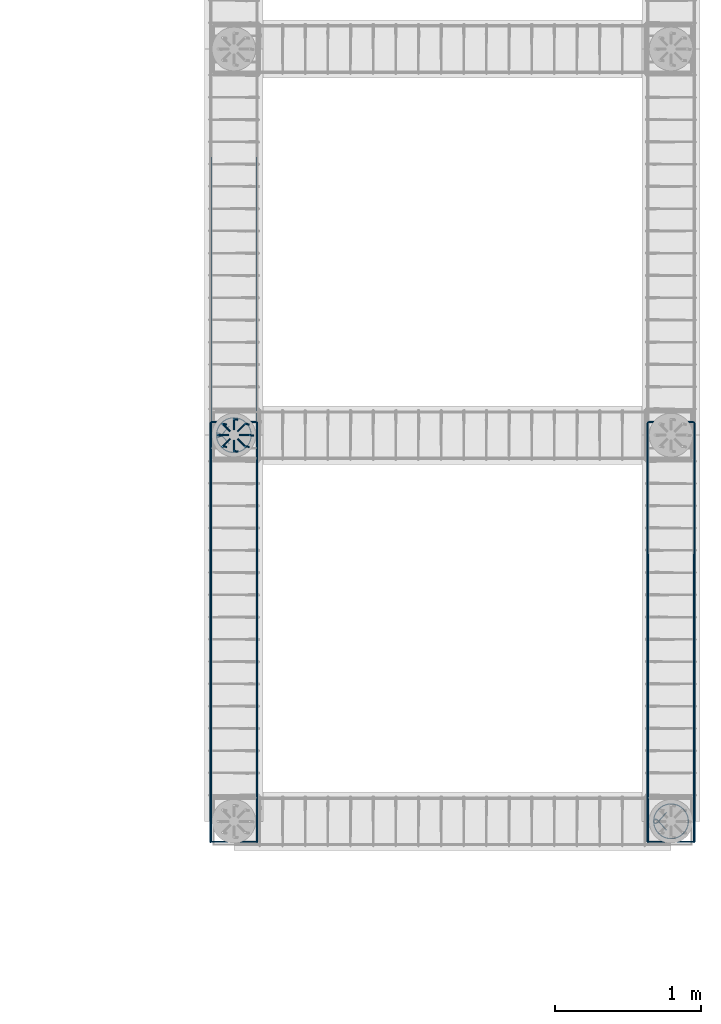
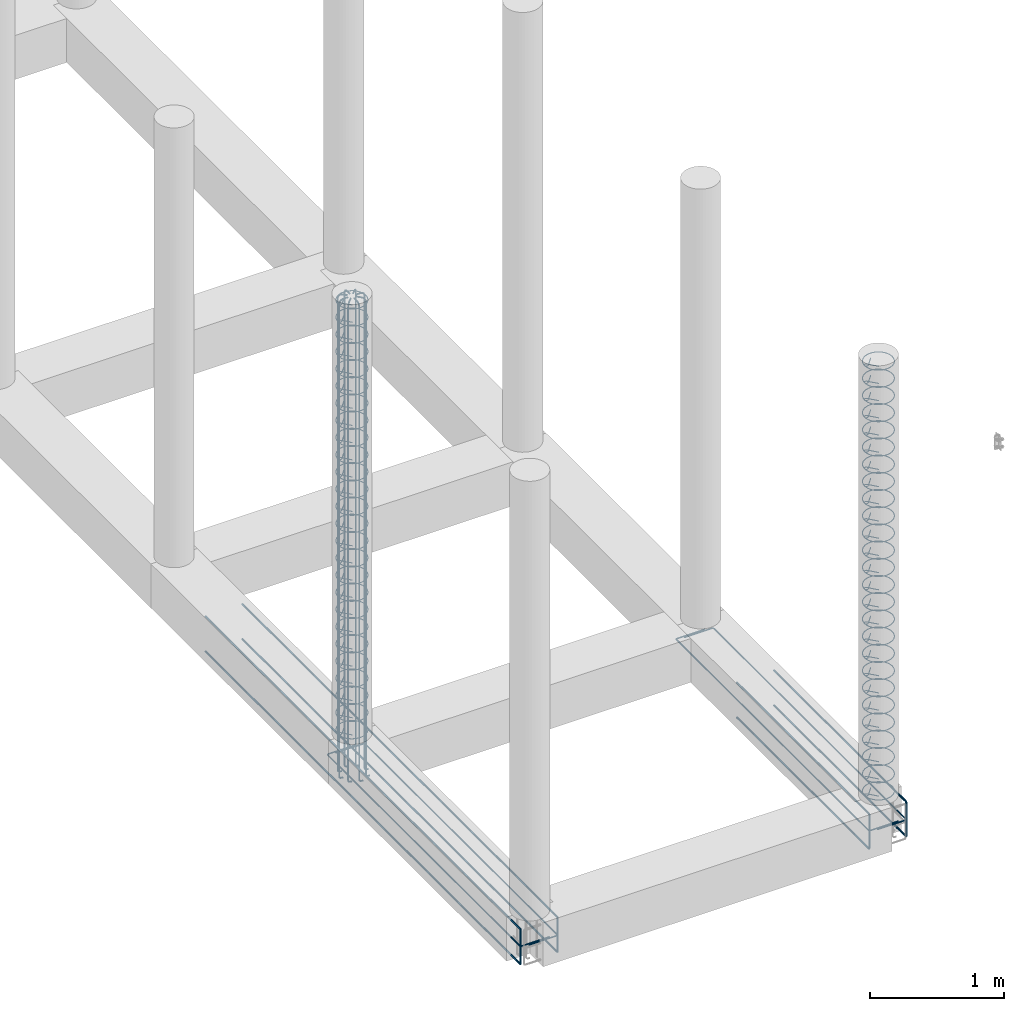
# One storey, part 5 of 20: 9 reinforcing bars.
"""IFC4 building model written with IfcOpenShell, lengths in metres."""

from ifc_helpers import new_model, entity, si_unit, origin_with_axes, place, context, project, spatial, source, transform, mapped, element, save


model = new_model("IFC4")

# Units and contexts
model_context = context("Model", 3, precision=1e-05, world=origin_with_axes())
ifc_project = project(units=[si_unit("LENGTHUNIT", "METRE"), si_unit("AREAUNIT", "SQUARE_METRE"), si_unit("VOLUMEUNIT", "CUBIC_METRE"), si_unit("MASSUNIT", "GRAM", prefix="KILO"), si_unit("TIMEUNIT", "SECOND"), si_unit("PLANEANGLEUNIT", "RADIAN"), si_unit("SOLIDANGLEUNIT", "STERADIAN"), si_unit("THERMODYNAMICTEMPERATUREUNIT", "DEGREE_CELSIUS")], contexts=[model_context])

# Site, building, storey
placement_1 = place(None, origin_with_axes())
site = spatial("IfcSite", under=ifc_project, at=placement_1, Name="Italia", CompositionType="ELEMENT")
building = spatial("IfcBuilding", under=site, at=placement_1, Name="Tettoia", CompositionType="ELEMENT")
storey = spatial("IfcBuildingStorey", under=building, at=placement_1, Name="Storey 0", CompositionType="ELEMENT", Elevation=0.0)

# Reinforcing bars
shared_shape_1 = source(origin_with_axes(), model_context, "Body", "AdvancedSweptSolid", [
    entity("IfcSweptDiskSolid", entity("IfcIndexedPolyCurve", entity("IfcCartesianPointList3D", [[11.2591, 1.93856, 0.029], [11.1957, 2.01046, 0.029], [11.1888, 2.01383, 0.029], [11.182, 2.01426, 0.029], [11.1781, 2.01374, 0.029], [11.1747, 2.01178, 0.029], [11.1724, 2.00867, 0.029], [11.1714, 2.0049, 0.029], [11.1711, 2.00071, 0.029], [11.1711, 1.99929, 0.029], [11.1725, 1.98218, 0.029], [11.1727, 1.98063, 0.029], [11.1767, 1.96401, 0.029], [11.1772, 1.96252, 0.029], [11.1837, 1.94673, 0.029], [11.1844, 1.94533, 0.029], [11.1934, 1.93076, 0.029], [11.1943, 1.92949, 0.029], [11.2054, 1.91649, 0.029], [11.2065, 1.91538, 0.029], [11.2195, 1.90429, 0.029], [11.2208, 1.90336, 0.029], [11.2353, 1.89443, 0.029], [11.2367, 1.89372, 0.029], [11.2525, 1.88718, 0.029], [11.254, 1.8867, 0.029], [11.2706, 1.88271, 0.029], [11.2722, 1.88246, 0.029], [11.2892, 1.88112, 0.029], [11.2908, 1.88112, 0.029], [11.3078, 1.88246, 0.029], [11.3094, 1.88271, 0.029], [11.326, 1.8867, 0.029], [11.3275, 1.88718, 0.029], [11.3433, 1.89372, 0.029], [11.3447, 1.89443, 0.029], [11.3592, 1.90336, 0.029], [11.3605, 1.90429, 0.029], [11.3735, 1.91538, 0.029], [11.3746, 1.91649, 0.029], [11.3857, 1.92949, 0.029], [11.3866, 1.93076, 0.029], [11.3956, 1.94533, 0.029], [11.3963, 1.94673, 0.029], [11.4028, 1.96252, 0.029], [11.4033, 1.96401, 0.029], [11.4073, 1.98063, 0.029], [11.4075, 1.98218, 0.029], [11.4089, 1.99922, 0.029], [11.4089, 2.00078, 0.029], [11.4075, 2.01782, 0.029], [11.4073, 2.01937, 0.029], [11.4033, 2.03599, 0.029], [11.4028, 2.03748, 0.029], [11.3963, 2.05327, 0.029], [11.3956, 2.05467, 0.029], [11.3866, 2.06924, 0.029], [11.3857, 2.07051, 0.029], [11.3746, 2.08351, 0.029], [11.3735, 2.08462, 0.029], [11.3605, 2.09571, 0.029], [11.3592, 2.09664, 0.029], [11.3447, 2.10557, 0.029], [11.3433, 2.10628, 0.029], [11.3275, 2.11282, 0.029], [11.326, 2.1133, 0.029], [11.3094, 2.11729, 0.029], [11.3078, 2.11754, 0.029], [11.2908, 2.11888, 0.029], [11.2892, 2.11888, 0.029], [11.2722, 2.11754, 0.029], [11.2706, 2.11729, 0.029], [11.254, 2.1133, 0.029], [11.2525, 2.11282, 0.029], [11.2367, 2.10628, 0.029], [11.2353, 2.10557, 0.029], [11.2208, 2.09664, 0.029], [11.2195, 2.09571, 0.029], [11.2065, 2.08462, 0.029], [11.2054, 2.08351, 0.029], [11.1943, 2.07051, 0.029], [11.1934, 2.06924, 0.029], [11.1844, 2.05467, 0.029], [11.1837, 2.05327, 0.029], [11.1772, 2.03748, 0.029], [11.1767, 2.03599, 0.029], [11.1727, 2.01937, 0.029], [11.1725, 2.01782, 0.029], [11.1711, 2.00071, 0.029], [11.1711, 1.99929, 0.029], [11.1714, 1.9951, 0.029], [11.1724, 1.99133, 0.029], [11.1747, 1.98822, 0.029], [11.1781, 1.98626, 0.029], [11.182, 1.98574, 0.029], [11.1888, 1.98617, 0.029], [11.1957, 1.98954, 0.029], [11.2591, 2.06144, 0.029]]), [entity("IfcLineIndex", [1, 2]), entity("IfcLineIndex", [2, 3]), entity("IfcLineIndex", [3, 4]), entity("IfcLineIndex", [4, 5]), entity("IfcLineIndex", [5, 6]), entity("IfcLineIndex", [6, 7]), entity("IfcLineIndex", [7, 8]), entity("IfcLineIndex", [8, 9]), entity("IfcLineIndex", [9, 10]), entity("IfcLineIndex", [10, 11]), entity("IfcLineIndex", [11, 12]), entity("IfcLineIndex", [12, 13]), entity("IfcLineIndex", [13, 14]), entity("IfcLineIndex", [14, 15]), entity("IfcLineIndex", [15, 16]), entity("IfcLineIndex", [16, 17]), entity("IfcLineIndex", [17, 18]), entity("IfcLineIndex", [18, 19]), entity("IfcLineIndex", [19, 20]), entity("IfcLineIndex", [20, 21]), entity("IfcLineIndex", [21, 22]), entity("IfcLineIndex", [22, 23]), entity("IfcLineIndex", [23, 24]), entity("IfcLineIndex", [24, 25]), entity("IfcLineIndex", [25, 26]), entity("IfcLineIndex", [26, 27]), entity("IfcLineIndex", [27, 28]), entity("IfcLineIndex", [28, 29]), entity("IfcLineIndex", [29, 30]), entity("IfcLineIndex", [30, 31]), entity("IfcLineIndex", [31, 32]), entity("IfcLineIndex", [32, 33]), entity("IfcLineIndex", [33, 34]), entity("IfcLineIndex", [34, 35]), entity("IfcLineIndex", [35, 36]), entity("IfcLineIndex", [36, 37]), entity("IfcLineIndex", [37, 38]), entity("IfcLineIndex", [38, 39]), entity("IfcLineIndex", [39, 40]), entity("IfcLineIndex", [40, 41]), entity("IfcLineIndex", [41, 42]), entity("IfcLineIndex", [42, 43]), entity("IfcLineIndex", [43, 44]), entity("IfcLineIndex", [44, 45]), entity("IfcLineIndex", [45, 46]), entity("IfcLineIndex", [46, 47]), entity("IfcLineIndex", [47, 48]), entity("IfcLineIndex", [48, 49]), entity("IfcLineIndex", [49, 50]), entity("IfcLineIndex", [50, 51]), entity("IfcLineIndex", [51, 52]), entity("IfcLineIndex", [52, 53]), entity("IfcLineIndex", [53, 54]), entity("IfcLineIndex", [54, 55]), entity("IfcLineIndex", [55, 56]), entity("IfcLineIndex", [56, 57]), entity("IfcLineIndex", [57, 58]), entity("IfcLineIndex", [58, 59]), entity("IfcLineIndex", [59, 60]), entity("IfcLineIndex", [60, 61]), entity("IfcLineIndex", [61, 62]), entity("IfcLineIndex", [62, 63]), entity("IfcLineIndex", [63, 64]), entity("IfcLineIndex", [64, 65]), entity("IfcLineIndex", [65, 66]), entity("IfcLineIndex", [66, 67]), entity("IfcLineIndex", [67, 68]), entity("IfcLineIndex", [68, 69]), entity("IfcLineIndex", [69, 70]), entity("IfcLineIndex", [70, 71]), entity("IfcLineIndex", [71, 72]), entity("IfcLineIndex", [72, 73]), entity("IfcLineIndex", [73, 74]), entity("IfcLineIndex", [74, 75]), entity("IfcLineIndex", [75, 76]), entity("IfcLineIndex", [76, 77]), entity("IfcLineIndex", [77, 78]), entity("IfcLineIndex", [78, 79]), entity("IfcLineIndex", [79, 80]), entity("IfcLineIndex", [80, 81]), entity("IfcLineIndex", [81, 82]), entity("IfcLineIndex", [82, 83]), entity("IfcLineIndex", [83, 84]), entity("IfcLineIndex", [84, 85]), entity("IfcLineIndex", [85, 86]), entity("IfcLineIndex", [86, 87]), entity("IfcLineIndex", [87, 88]), entity("IfcLineIndex", [88, 89]), entity("IfcLineIndex", [89, 90]), entity("IfcLineIndex", [90, 91]), entity("IfcLineIndex", [91, 92]), entity("IfcLineIndex", [92, 93]), entity("IfcLineIndex", [93, 94]), entity("IfcLineIndex", [94, 95]), entity("IfcLineIndex", [95, 96]), entity("IfcLineIndex", [96, 97]), entity("IfcLineIndex", [97, 98])], False), 0.004),
])
placement_2 = place(placement_1, origin_with_axes())
reinforcing_bar_1_placement = place(placement_2, origin_with_axes())
element("IfcReinforcingBar", 1, at=reinforcing_bar_1_placement, inside=storey, BarLength=1.00815, CrossSectionArea=5.0265e-05, NominalDiameter=0.008, context=model_context, shape_type="MappedRepresentation", body=[
    mapped(shared_shape_1, transform((0.0, 0.0, 1.8768), x_axis=(1.0, 0.0, 0.0), y_axis=(0.0, 1.0, 0.0), z_axis=(0.0, 0.0, 1.0), scale=1.0)),
    mapped(shared_shape_1, transform((0.0, 0.0, 1.7204), x_axis=(1.0, 0.0, 0.0), y_axis=(0.0, 1.0, 0.0), z_axis=(0.0, 0.0, 1.0), scale=1.0)),
    mapped(shared_shape_1, transform((0.0, 0.0, 1.0948), x_axis=(1.0, 0.0, 0.0), y_axis=(0.0, 1.0, 0.0), z_axis=(0.0, 0.0, 1.0), scale=1.0)),
    mapped(shared_shape_1, transform((0.0, 0.0, 1.4076), x_axis=(1.0, 0.0, 0.0), y_axis=(0.0, 1.0, 0.0), z_axis=(0.0, 0.0, 1.0), scale=1.0)),
    mapped(shared_shape_1, transform((0.0, 0.0, 1.2512), x_axis=(1.0, 0.0, 0.0), y_axis=(0.0, 1.0, 0.0), z_axis=(0.0, 0.0, 1.0), scale=1.0)),
    mapped(shared_shape_1, transform((0.0, 0.0, 1.564), x_axis=(1.0, 0.0, 0.0), y_axis=(0.0, 1.0, 0.0), z_axis=(0.0, 0.0, 1.0), scale=1.0)),
    mapped(shared_shape_1, transform((0.0, 0.0, 0.9384), x_axis=(1.0, 0.0, 0.0), y_axis=(0.0, 1.0, 0.0), z_axis=(0.0, 0.0, 1.0), scale=1.0)),
    mapped(shared_shape_1, transform((0.0, 0.0, 0.782), x_axis=(1.0, 0.0, 0.0), y_axis=(0.0, 1.0, 0.0), z_axis=(0.0, 0.0, 1.0), scale=1.0)),
    mapped(shared_shape_1, transform((0.0, 0.0, 0.1564), x_axis=(1.0, 0.0, 0.0), y_axis=(0.0, 1.0, 0.0), z_axis=(0.0, 0.0, 1.0), scale=1.0)),
    mapped(shared_shape_1, transform((0.0, 0.0, 0.4692), x_axis=(1.0, 0.0, 0.0), y_axis=(0.0, 1.0, 0.0), z_axis=(0.0, 0.0, 1.0), scale=1.0)),
    mapped(shared_shape_1, transform((0.0, 0.0, 0.3128), x_axis=(1.0, 0.0, 0.0), y_axis=(0.0, 1.0, 0.0), z_axis=(0.0, 0.0, 1.0), scale=1.0)),
    mapped(shared_shape_1, transform((0.0, 0.0, 0.6256), x_axis=(1.0, 0.0, 0.0), y_axis=(0.0, 1.0, 0.0), z_axis=(0.0, 0.0, 1.0), scale=1.0)),
    mapped(shared_shape_1, transform((0.0, 0.0, 0.0), x_axis=(1.0, 0.0, 0.0), y_axis=(0.0, 1.0, 0.0), z_axis=(0.0, 0.0, 1.0), scale=1.0)),
    mapped(shared_shape_1, transform((0.0, 0.0, 3.91), x_axis=(1.0, 0.0, 0.0), y_axis=(0.0, 1.0, 0.0), z_axis=(0.0, 0.0, 1.0), scale=1.0)),
    mapped(shared_shape_1, transform((0.0, 0.0, 3.2844), x_axis=(1.0, 0.0, 0.0), y_axis=(0.0, 1.0, 0.0), z_axis=(0.0, 0.0, 1.0), scale=1.0)),
    mapped(shared_shape_1, transform((0.0, 0.0, 3.5972), x_axis=(1.0, 0.0, 0.0), y_axis=(0.0, 1.0, 0.0), z_axis=(0.0, 0.0, 1.0), scale=1.0)),
    mapped(shared_shape_1, transform((0.0, 0.0, 3.4408), x_axis=(1.0, 0.0, 0.0), y_axis=(0.0, 1.0, 0.0), z_axis=(0.0, 0.0, 1.0), scale=1.0)),
    mapped(shared_shape_1, transform((0.0, 0.0, 3.7536), x_axis=(1.0, 0.0, 0.0), y_axis=(0.0, 1.0, 0.0), z_axis=(0.0, 0.0, 1.0), scale=1.0)),
    mapped(shared_shape_1, transform((0.0, 0.0, 3.128), x_axis=(1.0, 0.0, 0.0), y_axis=(0.0, 1.0, 0.0), z_axis=(0.0, 0.0, 1.0), scale=1.0)),
    mapped(shared_shape_1, transform((0.0, 0.0, 2.9716), x_axis=(1.0, 0.0, 0.0), y_axis=(0.0, 1.0, 0.0), z_axis=(0.0, 0.0, 1.0), scale=1.0)),
    mapped(shared_shape_1, transform((0.0, 0.0, 2.346), x_axis=(1.0, 0.0, 0.0), y_axis=(0.0, 1.0, 0.0), z_axis=(0.0, 0.0, 1.0), scale=1.0)),
    mapped(shared_shape_1, transform((0.0, 0.0, 2.6588), x_axis=(1.0, 0.0, 0.0), y_axis=(0.0, 1.0, 0.0), z_axis=(0.0, 0.0, 1.0), scale=1.0)),
    mapped(shared_shape_1, transform((0.0, 0.0, 2.5024), x_axis=(1.0, 0.0, 0.0), y_axis=(0.0, 1.0, 0.0), z_axis=(0.0, 0.0, 1.0), scale=1.0)),
    mapped(shared_shape_1, transform((0.0, 0.0, 2.8152), x_axis=(1.0, 0.0, 0.0), y_axis=(0.0, 1.0, 0.0), z_axis=(0.0, 0.0, 1.0), scale=1.0)),
    mapped(shared_shape_1, transform((0.0, 0.0, 2.1896), x_axis=(1.0, 0.0, 0.0), y_axis=(0.0, 1.0, 0.0), z_axis=(0.0, 0.0, 1.0), scale=1.0)),
    mapped(shared_shape_1, transform((0.0, 0.0, 2.0332), x_axis=(1.0, 0.0, 0.0), y_axis=(0.0, 1.0, 0.0), z_axis=(0.0, 0.0, 1.0), scale=1.0)),
])
shared_shape_2 = source(origin_with_axes(), model_context, "Body", "AdvancedSweptSolid", [
    entity("IfcSweptDiskSolid", entity("IfcIndexedPolyCurve", entity("IfcCartesianPointList3D", [[8.21102, 4.64605, -0.375], [8.19714, 4.64787, -0.375], [8.19097, 4.64869, -0.373761], [8.18573, 4.64938, -0.370231], [8.18223, 4.64984, -0.364948], [8.181, 4.65, -0.358717], [8.181, 4.65, 0.5725]]), [entity("IfcLineIndex", [1, 2]), entity("IfcLineIndex", [2, 3]), entity("IfcLineIndex", [3, 4]), entity("IfcLineIndex", [4, 5]), entity("IfcLineIndex", [5, 6]), entity("IfcLineIndex", [6, 7])], False), 0.007),
])
reinforcing_bar_2_placement = place(placement_2, origin_with_axes())
element("IfcReinforcingBar", 2, at=reinforcing_bar_2_placement, inside=storey, BarLength=0.97063, CrossSectionArea=0.00015394, NominalDiameter=0.014, context=model_context, shape_type="MappedRepresentation", body=[
    mapped(shared_shape_2, transform((0.186074, -0.077075, 0.0), x_axis=(1.0, 0.0, 0.0), y_axis=(0.0, 1.0, 0.0), z_axis=(0.0, 0.0, 1.0), scale=1.0)),
    mapped(shared_shape_2, transform((0.218041, -7.24792e-05, 0.0), x_axis=(1.0, 0.0, 0.0), y_axis=(0.0, 1.0, 0.0), z_axis=(0.0, 0.0, 1.0), scale=1.0)),
    mapped(shared_shape_2, transform((0.0319252, -0.077075, 0.0), x_axis=(1.0, 0.0, 0.0), y_axis=(0.0, 1.0, 0.0), z_axis=(0.0, 0.0, 1.0), scale=1.0)),
    mapped(shared_shape_2, transform((0.109041, -0.109073, 0.0), x_axis=(1.0, 0.0, 0.0), y_axis=(0.0, 1.0, 0.0), z_axis=(0.0, 0.0, 1.0), scale=1.0)),
    mapped(shared_shape_2, transform((0.0, 0.0, 0.0), x_axis=(1.0, 0.0, 0.0), y_axis=(0.0, 1.0, 0.0), z_axis=(0.0, 0.0, 1.0), scale=1.0)),
    mapped(shared_shape_2, transform((0.0319672, 0.077002, 0.0), x_axis=(1.0, 0.0, 0.0), y_axis=(0.0, 1.0, 0.0), z_axis=(0.0, 0.0, 1.0), scale=1.0)),
    mapped(shared_shape_2, transform((0.186074, 0.0770745, 0.0), x_axis=(1.0, 0.0, 0.0), y_axis=(0.0, 1.0, 0.0), z_axis=(0.0, 0.0, 1.0), scale=1.0)),
    mapped(shared_shape_2, transform((0.108843, 0.109277, 0.0), x_axis=(1.0, -3.3766e-05, 0.0), y_axis=(3.3766e-05, 1.0, 0.0), z_axis=(0.0, 0.0, 1.0), scale=1.0)),
])
shared_shape_3 = source(origin_with_axes(), model_context, "Body", "AdvancedSweptSolid", [
    entity("IfcSweptDiskSolid", entity("IfcIndexedPolyCurve", entity("IfcCartesianPointList3D", [[8.181, 4.65, 0.0], [8.181, 4.65, 3.94], [8.18366, 4.65, 3.95339], [8.19125, 4.65, 3.96475], [8.20261, 4.65, 3.97234], [8.216, 4.65, 3.975], [8.256, 4.65, 3.975]]), [entity("IfcLineIndex", [1, 2]), entity("IfcLineIndex", [2, 3]), entity("IfcLineIndex", [3, 4]), entity("IfcLineIndex", [4, 5]), entity("IfcLineIndex", [5, 6]), entity("IfcLineIndex", [6, 7])], False), 0.007),
])
reinforcing_bar_3_placement = place(placement_2, origin_with_axes())
element("IfcReinforcingBar", 3, at=reinforcing_bar_3_placement, inside=storey, BarLength=4.03463, CrossSectionArea=0.00015394, NominalDiameter=0.014, context=model_context, shape_type="MappedRepresentation", body=[
    mapped(shared_shape_3, transform((17.44, 2.07609, 0.0), x_axis=(-0.707104, 0.70711, 0.0), y_axis=(-0.70711, -0.707104, 0.0), z_axis=(0.0, 0.0, 1.0), scale=1.0)),
    mapped(shared_shape_3, transform((16.58, 9.3, 0.0), x_axis=(-1.0, 0.0, 0.0), y_axis=(0.0, -1.0, 0.0), z_axis=(0.0, 0.0, 1.0), scale=1.0)),
    mapped(shared_shape_3, transform((5.71613, -4.49996, 0.0), x_axis=(0.707107, 0.707107, 0.0), y_axis=(-0.707107, 0.707107, 0.0), z_axis=(0.0, 0.0, 1.0), scale=1.0)),
    mapped(shared_shape_3, transform((12.94, -3.64, 0.0), x_axis=(0.0, 1.0, 0.0), y_axis=(-1.0, 0.0, 0.0), z_axis=(0.0, 0.0, 1.0), scale=1.0)),
    mapped(shared_shape_3, transform((-0.859962, 7.22387, 0.0), x_axis=(0.707107, -0.707107, 0.0), y_axis=(0.707107, 0.707107, 0.0), z_axis=(0.0, 0.0, 1.0), scale=1.0)),
    mapped(shared_shape_3, transform((0.0, 0.0, 0.0), x_axis=(1.0, 0.0, 0.0), y_axis=(0.0, 1.0, 0.0), z_axis=(0.0, 0.0, 1.0), scale=1.0)),
    mapped(shared_shape_3, transform((10.8639, 13.8, 0.0), x_axis=(-0.707107, -0.707107, 0.0), y_axis=(0.707107, -0.707107, 0.0), z_axis=(0.0, 0.0, 1.0), scale=1.0)),
    mapped(shared_shape_3, transform((3.64, 12.94, 0.0), x_axis=(0.0, -1.0, 0.0), y_axis=(1.0, 0.0, 0.0), z_axis=(0.0, 0.0, 1.0), scale=1.0)),
])
shared_shape_4 = source(origin_with_axes(), model_context, "Body", "AdvancedSweptSolid", [
    entity("IfcSweptDiskSolid", entity("IfcIndexedPolyCurve", entity("IfcCartesianPointList3D", [[8.25909, 4.58856, 0.029], [8.19569, 4.66046, 0.029], [8.18882, 4.66383, 0.029], [8.18197, 4.66426, 0.029], [8.17811, 4.66374, 0.029], [8.17473, 4.66178, 0.029], [8.17237, 4.65867, 0.029], [8.17137, 4.6549, 0.029], [8.1711, 4.65071, 0.029], [8.17111, 4.64929, 0.029], [8.17246, 4.63218, 0.029], [8.17271, 4.63063, 0.029], [8.1767, 4.61401, 0.029], [8.17718, 4.61252, 0.029], [8.18372, 4.59673, 0.029], [8.18443, 4.59533, 0.029], [8.19336, 4.58076, 0.029], [8.19429, 4.57949, 0.029], [8.20538, 4.56649, 0.029], [8.20649, 4.56538, 0.029], [8.21949, 4.55429, 0.029], [8.22076, 4.55336, 0.029], [8.23533, 4.54443, 0.029], [8.23673, 4.54372, 0.029], [8.25252, 4.53718, 0.029], [8.25401, 4.5367, 0.029], [8.27063, 4.53271, 0.029], [8.27218, 4.53246, 0.029], [8.28922, 4.53112, 0.029], [8.29078, 4.53112, 0.029], [8.30782, 4.53246, 0.029], [8.30937, 4.53271, 0.029], [8.32599, 4.5367, 0.029], [8.32748, 4.53718, 0.029], [8.34327, 4.54372, 0.029], [8.34467, 4.54443, 0.029], [8.35924, 4.55336, 0.029], [8.36051, 4.55429, 0.029], [8.37351, 4.56538, 0.029], [8.37462, 4.56649, 0.029], [8.38571, 4.57949, 0.029], [8.38664, 4.58076, 0.029], [8.39557, 4.59533, 0.029], [8.39628, 4.59673, 0.029], [8.40282, 4.61252, 0.029], [8.4033, 4.61401, 0.029], [8.40729, 4.63063, 0.029], [8.40754, 4.63218, 0.029], [8.40888, 4.64922, 0.029], [8.40888, 4.65078, 0.029], [8.40754, 4.66782, 0.029], [8.40729, 4.66937, 0.029], [8.4033, 4.68599, 0.029], [8.40282, 4.68748, 0.029], [8.39628, 4.70327, 0.029], [8.39557, 4.70467, 0.029], [8.38664, 4.71924, 0.029], [8.38571, 4.72051, 0.029], [8.37462, 4.73351, 0.029], [8.37351, 4.73462, 0.029], [8.36051, 4.74572, 0.029], [8.35924, 4.74664, 0.029], [8.34467, 4.75557, 0.029], [8.34327, 4.75628, 0.029], [8.32748, 4.76282, 0.029], [8.32599, 4.7633, 0.029], [8.30937, 4.76729, 0.029], [8.30782, 4.76754, 0.029], [8.29078, 4.76888, 0.029], [8.28922, 4.76888, 0.029], [8.27218, 4.76754, 0.029], [8.27063, 4.76729, 0.029], [8.25401, 4.7633, 0.029], [8.25252, 4.76282, 0.029], [8.23673, 4.75628, 0.029], [8.23533, 4.75557, 0.029], [8.22076, 4.74664, 0.029], [8.21949, 4.74572, 0.029], [8.20649, 4.73462, 0.029], [8.20538, 4.73351, 0.029], [8.19429, 4.72051, 0.029], [8.19336, 4.71924, 0.029], [8.18443, 4.70467, 0.029], [8.18372, 4.70327, 0.029], [8.17718, 4.68748, 0.029], [8.1767, 4.68599, 0.029], [8.17271, 4.66937, 0.029], [8.17246, 4.66782, 0.029], [8.17111, 4.65071, 0.029], [8.1711, 4.64929, 0.029], [8.17137, 4.6451, 0.029], [8.17237, 4.64133, 0.029], [8.17473, 4.63822, 0.029], [8.17811, 4.63626, 0.029], [8.18197, 4.63574, 0.029], [8.18882, 4.63617, 0.029], [8.19569, 4.63954, 0.029], [8.25909, 4.71144, 0.029]]), [entity("IfcLineIndex", [1, 2]), entity("IfcLineIndex", [2, 3]), entity("IfcLineIndex", [3, 4]), entity("IfcLineIndex", [4, 5]), entity("IfcLineIndex", [5, 6]), entity("IfcLineIndex", [6, 7]), entity("IfcLineIndex", [7, 8]), entity("IfcLineIndex", [8, 9]), entity("IfcLineIndex", [9, 10]), entity("IfcLineIndex", [10, 11]), entity("IfcLineIndex", [11, 12]), entity("IfcLineIndex", [12, 13]), entity("IfcLineIndex", [13, 14]), entity("IfcLineIndex", [14, 15]), entity("IfcLineIndex", [15, 16]), entity("IfcLineIndex", [16, 17]), entity("IfcLineIndex", [17, 18]), entity("IfcLineIndex", [18, 19]), entity("IfcLineIndex", [19, 20]), entity("IfcLineIndex", [20, 21]), entity("IfcLineIndex", [21, 22]), entity("IfcLineIndex", [22, 23]), entity("IfcLineIndex", [23, 24]), entity("IfcLineIndex", [24, 25]), entity("IfcLineIndex", [25, 26]), entity("IfcLineIndex", [26, 27]), entity("IfcLineIndex", [27, 28]), entity("IfcLineIndex", [28, 29]), entity("IfcLineIndex", [29, 30]), entity("IfcLineIndex", [30, 31]), entity("IfcLineIndex", [31, 32]), entity("IfcLineIndex", [32, 33]), entity("IfcLineIndex", [33, 34]), entity("IfcLineIndex", [34, 35]), entity("IfcLineIndex", [35, 36]), entity("IfcLineIndex", [36, 37]), entity("IfcLineIndex", [37, 38]), entity("IfcLineIndex", [38, 39]), entity("IfcLineIndex", [39, 40]), entity("IfcLineIndex", [40, 41]), entity("IfcLineIndex", [41, 42]), entity("IfcLineIndex", [42, 43]), entity("IfcLineIndex", [43, 44]), entity("IfcLineIndex", [44, 45]), entity("IfcLineIndex", [45, 46]), entity("IfcLineIndex", [46, 47]), entity("IfcLineIndex", [47, 48]), entity("IfcLineIndex", [48, 49]), entity("IfcLineIndex", [49, 50]), entity("IfcLineIndex", [50, 51]), entity("IfcLineIndex", [51, 52]), entity("IfcLineIndex", [52, 53]), entity("IfcLineIndex", [53, 54]), entity("IfcLineIndex", [54, 55]), entity("IfcLineIndex", [55, 56]), entity("IfcLineIndex", [56, 57]), entity("IfcLineIndex", [57, 58]), entity("IfcLineIndex", [58, 59]), entity("IfcLineIndex", [59, 60]), entity("IfcLineIndex", [60, 61]), entity("IfcLineIndex", [61, 62]), entity("IfcLineIndex", [62, 63]), entity("IfcLineIndex", [63, 64]), entity("IfcLineIndex", [64, 65]), entity("IfcLineIndex", [65, 66]), entity("IfcLineIndex", [66, 67]), entity("IfcLineIndex", [67, 68]), entity("IfcLineIndex", [68, 69]), entity("IfcLineIndex", [69, 70]), entity("IfcLineIndex", [70, 71]), entity("IfcLineIndex", [71, 72]), entity("IfcLineIndex", [72, 73]), entity("IfcLineIndex", [73, 74]), entity("IfcLineIndex", [74, 75]), entity("IfcLineIndex", [75, 76]), entity("IfcLineIndex", [76, 77]), entity("IfcLineIndex", [77, 78]), entity("IfcLineIndex", [78, 79]), entity("IfcLineIndex", [79, 80]), entity("IfcLineIndex", [80, 81]), entity("IfcLineIndex", [81, 82]), entity("IfcLineIndex", [82, 83]), entity("IfcLineIndex", [83, 84]), entity("IfcLineIndex", [84, 85]), entity("IfcLineIndex", [85, 86]), entity("IfcLineIndex", [86, 87]), entity("IfcLineIndex", [87, 88]), entity("IfcLineIndex", [88, 89]), entity("IfcLineIndex", [89, 90]), entity("IfcLineIndex", [90, 91]), entity("IfcLineIndex", [91, 92]), entity("IfcLineIndex", [92, 93]), entity("IfcLineIndex", [93, 94]), entity("IfcLineIndex", [94, 95]), entity("IfcLineIndex", [95, 96]), entity("IfcLineIndex", [96, 97]), entity("IfcLineIndex", [97, 98])], False), 0.004),
])
reinforcing_bar_4_placement = place(placement_2, origin_with_axes())
element("IfcReinforcingBar", 4, at=reinforcing_bar_4_placement, inside=storey, BarLength=1.00815, CrossSectionArea=5.0265e-05, NominalDiameter=0.008, context=model_context, shape_type="MappedRepresentation", body=[
    mapped(shared_shape_4, transform((0.0, 0.0, 1.8768), x_axis=(1.0, 0.0, 0.0), y_axis=(0.0, 1.0, 0.0), z_axis=(0.0, 0.0, 1.0), scale=1.0)),
    mapped(shared_shape_4, transform((0.0, 0.0, 1.7204), x_axis=(1.0, 0.0, 0.0), y_axis=(0.0, 1.0, 0.0), z_axis=(0.0, 0.0, 1.0), scale=1.0)),
    mapped(shared_shape_4, transform((0.0, 0.0, 1.0948), x_axis=(1.0, 0.0, 0.0), y_axis=(0.0, 1.0, 0.0), z_axis=(0.0, 0.0, 1.0), scale=1.0)),
    mapped(shared_shape_4, transform((0.0, 0.0, 1.4076), x_axis=(1.0, 0.0, 0.0), y_axis=(0.0, 1.0, 0.0), z_axis=(0.0, 0.0, 1.0), scale=1.0)),
    mapped(shared_shape_4, transform((0.0, 0.0, 1.2512), x_axis=(1.0, 0.0, 0.0), y_axis=(0.0, 1.0, 0.0), z_axis=(0.0, 0.0, 1.0), scale=1.0)),
    mapped(shared_shape_4, transform((0.0, 0.0, 1.564), x_axis=(1.0, 0.0, 0.0), y_axis=(0.0, 1.0, 0.0), z_axis=(0.0, 0.0, 1.0), scale=1.0)),
    mapped(shared_shape_4, transform((0.0, 0.0, 0.9384), x_axis=(1.0, 0.0, 0.0), y_axis=(0.0, 1.0, 0.0), z_axis=(0.0, 0.0, 1.0), scale=1.0)),
    mapped(shared_shape_4, transform((0.0, 0.0, 0.782), x_axis=(1.0, 0.0, 0.0), y_axis=(0.0, 1.0, 0.0), z_axis=(0.0, 0.0, 1.0), scale=1.0)),
    mapped(shared_shape_4, transform((0.0, 0.0, 0.1564), x_axis=(1.0, 0.0, 0.0), y_axis=(0.0, 1.0, 0.0), z_axis=(0.0, 0.0, 1.0), scale=1.0)),
    mapped(shared_shape_4, transform((0.0, 0.0, 0.4692), x_axis=(1.0, 0.0, 0.0), y_axis=(0.0, 1.0, 0.0), z_axis=(0.0, 0.0, 1.0), scale=1.0)),
    mapped(shared_shape_4, transform((0.0, 0.0, 0.3128), x_axis=(1.0, 0.0, 0.0), y_axis=(0.0, 1.0, 0.0), z_axis=(0.0, 0.0, 1.0), scale=1.0)),
    mapped(shared_shape_4, transform((0.0, 0.0, 0.6256), x_axis=(1.0, 0.0, 0.0), y_axis=(0.0, 1.0, 0.0), z_axis=(0.0, 0.0, 1.0), scale=1.0)),
    mapped(shared_shape_4, transform((0.0, 0.0, 0.0), x_axis=(1.0, 0.0, 0.0), y_axis=(0.0, 1.0, 0.0), z_axis=(0.0, 0.0, 1.0), scale=1.0)),
    mapped(shared_shape_4, transform((0.0, 0.0, 3.91), x_axis=(1.0, 0.0, 0.0), y_axis=(0.0, 1.0, 0.0), z_axis=(0.0, 0.0, 1.0), scale=1.0)),
    mapped(shared_shape_4, transform((0.0, 0.0, 3.2844), x_axis=(1.0, 0.0, 0.0), y_axis=(0.0, 1.0, 0.0), z_axis=(0.0, 0.0, 1.0), scale=1.0)),
    mapped(shared_shape_4, transform((0.0, 0.0, 3.5972), x_axis=(1.0, 0.0, 0.0), y_axis=(0.0, 1.0, 0.0), z_axis=(0.0, 0.0, 1.0), scale=1.0)),
    mapped(shared_shape_4, transform((0.0, 0.0, 3.4408), x_axis=(1.0, 0.0, 0.0), y_axis=(0.0, 1.0, 0.0), z_axis=(0.0, 0.0, 1.0), scale=1.0)),
    mapped(shared_shape_4, transform((0.0, 0.0, 3.7536), x_axis=(1.0, 0.0, 0.0), y_axis=(0.0, 1.0, 0.0), z_axis=(0.0, 0.0, 1.0), scale=1.0)),
    mapped(shared_shape_4, transform((0.0, 0.0, 3.128), x_axis=(1.0, 0.0, 0.0), y_axis=(0.0, 1.0, 0.0), z_axis=(0.0, 0.0, 1.0), scale=1.0)),
    mapped(shared_shape_4, transform((0.0, 0.0, 2.9716), x_axis=(1.0, 0.0, 0.0), y_axis=(0.0, 1.0, 0.0), z_axis=(0.0, 0.0, 1.0), scale=1.0)),
    mapped(shared_shape_4, transform((0.0, 0.0, 2.346), x_axis=(1.0, 0.0, 0.0), y_axis=(0.0, 1.0, 0.0), z_axis=(0.0, 0.0, 1.0), scale=1.0)),
    mapped(shared_shape_4, transform((0.0, 0.0, 2.6588), x_axis=(1.0, 0.0, 0.0), y_axis=(0.0, 1.0, 0.0), z_axis=(0.0, 0.0, 1.0), scale=1.0)),
    mapped(shared_shape_4, transform((0.0, 0.0, 2.5024), x_axis=(1.0, 0.0, 0.0), y_axis=(0.0, 1.0, 0.0), z_axis=(0.0, 0.0, 1.0), scale=1.0)),
    mapped(shared_shape_4, transform((0.0, 0.0, 2.8152), x_axis=(1.0, 0.0, 0.0), y_axis=(0.0, 1.0, 0.0), z_axis=(0.0, 0.0, 1.0), scale=1.0)),
    mapped(shared_shape_4, transform((0.0, 0.0, 2.1896), x_axis=(1.0, 0.0, 0.0), y_axis=(0.0, 1.0, 0.0), z_axis=(0.0, 0.0, 1.0), scale=1.0)),
    mapped(shared_shape_4, transform((0.0, 0.0, 2.0332), x_axis=(1.0, 0.0, 0.0), y_axis=(0.0, 1.0, 0.0), z_axis=(0.0, 0.0, 1.0), scale=1.0)),
])
shared_shape_5 = source(origin_with_axes(), model_context, "Body", "AdvancedSweptSolid", [
    entity("IfcSweptDiskSolid", entity("IfcIndexedPolyCurve", entity("IfcCartesianPointList3D", [[8.379, 1.86, -0.194], [8.139, 1.86, -0.194], [8.13517, 1.86076, -0.194], [8.13193, 1.86293, -0.194], [8.12976, 1.86617, -0.194], [8.129, 1.87, -0.194], [8.129, 4.73, -0.194], [8.12976, 4.73383, -0.194], [8.13193, 4.73707, -0.194], [8.13517, 4.73924, -0.194], [8.139, 4.74, -0.194], [8.379, 4.74, -0.194]]), [entity("IfcLineIndex", [1, 2]), entity("IfcLineIndex", [2, 3]), entity("IfcLineIndex", [3, 4]), entity("IfcLineIndex", [4, 5]), entity("IfcLineIndex", [5, 6]), entity("IfcLineIndex", [6, 7]), entity("IfcLineIndex", [7, 8]), entity("IfcLineIndex", [8, 9]), entity("IfcLineIndex", [9, 10]), entity("IfcLineIndex", [10, 11]), entity("IfcLineIndex", [11, 12])], False), 0.006),
])
reinforcing_bar_5_placement = place(placement_2, origin_with_axes())
element("IfcReinforcingBar", 5, at=reinforcing_bar_5_placement, inside=storey, BarLength=3.37121, CrossSectionArea=0.0001131, NominalDiameter=0.012, context=model_context, shape_type="MappedRepresentation", body=[
    mapped(shared_shape_5, transform((16.58, 0.0, -0.4), x_axis=(-1.0, 0.0, 0.0), y_axis=(0.0, 1.0, 0.0), z_axis=(0.0, 0.0, -1.0), scale=1.0)),
    mapped(shared_shape_5, transform((0.0, 0.0, 0.0), x_axis=(1.0, 0.0, 0.0), y_axis=(0.0, 1.0, 0.0), z_axis=(0.0, 0.0, 1.0), scale=1.0)),
])
shared_shape_6 = source(origin_with_axes(), model_context, "Body", "AdvancedSweptSolid", [
    entity("IfcSweptDiskSolid", entity("IfcIndexedPolyCurve", entity("IfcCartesianPointList3D", [[8.449, 2.66727, -0.359], [8.449, 3.25, -0.359], [8.449, 5.975, -0.359], [8.449, 6.55773, -0.359]]), [entity("IfcLineIndex", [1, 2]), entity("IfcLineIndex", [2, 3]), entity("IfcLineIndex", [3, 4])], False), 0.008),
])
reinforcing_bar_6_placement = place(placement_2, origin_with_axes())
element("IfcReinforcingBar", 6, at=reinforcing_bar_6_placement, inside=storey, BarLength=3.89046, CrossSectionArea=0.00020106, NominalDiameter=0.016, context=model_context, shape_type="MappedRepresentation", body=[
    mapped(shared_shape_6, transform((-0.318, 0.0, 0.0), x_axis=(1.0, 0.0, 0.0), y_axis=(0.0, 1.0, 0.0), z_axis=(0.0, 0.0, 1.0), scale=1.0)),
    mapped(shared_shape_6, transform((0.0, 0.0, 0.0), x_axis=(1.0, 0.0, 0.0), y_axis=(0.0, 1.0, 0.0), z_axis=(0.0, 0.0, 1.0), scale=1.0)),
    mapped(shared_shape_6, transform((-0.318, 0.0, 0.318), x_axis=(1.0, 0.0, 0.0), y_axis=(0.0, 1.0, 0.0), z_axis=(0.0, 0.0, 1.0), scale=1.0)),
    mapped(shared_shape_6, transform((0.0, 0.0, 0.318), x_axis=(1.0, 0.0, 0.0), y_axis=(0.0, 1.0, 0.0), z_axis=(0.0, 0.0, 1.0), scale=1.0)),
])
shared_shape_7 = source(origin_with_axes(), model_context, "Body", "AdvancedSweptSolid", [
    entity("IfcSweptDiskSolid", entity("IfcIndexedPolyCurve", entity("IfcCartesianPointList3D", [[8.449, 1.86, -0.109], [8.449, 1.86, -0.349], [8.449, 1.86076, -0.352827], [8.449, 1.86293, -0.356071], [8.449, 1.86617, -0.358239], [8.449, 1.87, -0.359], [8.449, 2.0, -0.359], [8.449, 3.25, -0.359], [8.449, 3.83273, -0.359]]), [entity("IfcLineIndex", [1, 2]), entity("IfcLineIndex", [2, 3]), entity("IfcLineIndex", [3, 4]), entity("IfcLineIndex", [4, 5]), entity("IfcLineIndex", [5, 6]), entity("IfcLineIndex", [6, 7]), entity("IfcLineIndex", [7, 8]), entity("IfcLineIndex", [8, 9])], False), 0.008),
])
reinforcing_bar_7_placement = place(placement_2, origin_with_axes())
element("IfcReinforcingBar", 7, at=reinforcing_bar_7_placement, inside=storey, BarLength=2.21833, CrossSectionArea=0.00020106, NominalDiameter=0.016, context=model_context, shape_type="MappedRepresentation", body=[
    mapped(shared_shape_7, transform((-0.318, 0.0, 0.0), x_axis=(1.0, 0.0, 0.0), y_axis=(0.0, 1.0, 0.0), z_axis=(0.0, 0.0, 1.0), scale=1.0)),
    mapped(shared_shape_7, transform((0.0, 0.0, 0.0), x_axis=(1.0, 0.0, 0.0), y_axis=(0.0, 1.0, 0.0), z_axis=(0.0, 0.0, 1.0), scale=1.0)),
    mapped(shared_shape_7, transform((16.58, 0.0, -0.4), x_axis=(-1.0, 0.0, 0.0), y_axis=(0.0, 1.0, 0.0), z_axis=(0.0, 0.0, -1.0), scale=1.0)),
    mapped(shared_shape_7, transform((16.898, 0.0, -0.4), x_axis=(-1.0, 0.0, 0.0), y_axis=(0.0, 1.0, 0.0), z_axis=(0.0, 0.0, -1.0), scale=1.0)),
])
shared_shape_8 = source(origin_with_axes(), model_context, "Body", "AdvancedSweptSolid", [
    entity("IfcSweptDiskSolid", entity("IfcIndexedPolyCurve", entity("IfcCartesianPointList3D", [[11.379, 1.86, -0.194], [11.139, 1.86, -0.194], [11.1352, 1.86076, -0.194], [11.1319, 1.86293, -0.194], [11.1298, 1.86617, -0.194], [11.129, 1.87, -0.194], [11.129, 4.73, -0.194], [11.1298, 4.73383, -0.194], [11.1319, 4.73707, -0.194], [11.1352, 4.73924, -0.194], [11.139, 4.74, -0.194], [11.379, 4.74, -0.194]]), [entity("IfcLineIndex", [1, 2]), entity("IfcLineIndex", [2, 3]), entity("IfcLineIndex", [3, 4]), entity("IfcLineIndex", [4, 5]), entity("IfcLineIndex", [5, 6]), entity("IfcLineIndex", [6, 7]), entity("IfcLineIndex", [7, 8]), entity("IfcLineIndex", [8, 9]), entity("IfcLineIndex", [9, 10]), entity("IfcLineIndex", [10, 11]), entity("IfcLineIndex", [11, 12])], False), 0.006),
])
reinforcing_bar_8_placement = place(placement_2, origin_with_axes())
element("IfcReinforcingBar", 8, at=reinforcing_bar_8_placement, inside=storey, BarLength=3.37121, CrossSectionArea=0.0001131, NominalDiameter=0.012, context=model_context, shape_type="MappedRepresentation", body=[
    mapped(shared_shape_8, transform((22.58, 0.0, -0.4), x_axis=(-1.0, 0.0, 0.0), y_axis=(0.0, 1.0, 0.0), z_axis=(0.0, 0.0, -1.0), scale=1.0)),
    mapped(shared_shape_8, transform((0.0, 0.0, 0.0), x_axis=(1.0, 0.0, 0.0), y_axis=(0.0, 1.0, 0.0), z_axis=(0.0, 0.0, 1.0), scale=1.0)),
])
shared_shape_9 = source(origin_with_axes(), model_context, "Body", "AdvancedSweptSolid", [
    entity("IfcSweptDiskSolid", entity("IfcIndexedPolyCurve", entity("IfcCartesianPointList3D", [[11.449, 1.86, -0.109], [11.449, 1.86, -0.349], [11.449, 1.86076, -0.352827], [11.449, 1.86293, -0.356071], [11.449, 1.86617, -0.358239], [11.449, 1.87, -0.359], [11.449, 2.0, -0.359], [11.449, 3.25, -0.359], [11.449, 3.83273, -0.359]]), [entity("IfcLineIndex", [1, 2]), entity("IfcLineIndex", [2, 3]), entity("IfcLineIndex", [3, 4]), entity("IfcLineIndex", [4, 5]), entity("IfcLineIndex", [5, 6]), entity("IfcLineIndex", [6, 7]), entity("IfcLineIndex", [7, 8]), entity("IfcLineIndex", [8, 9])], False), 0.008),
])
reinforcing_bar_9_placement = place(placement_2, origin_with_axes())
element("IfcReinforcingBar", 9, at=reinforcing_bar_9_placement, inside=storey, BarLength=2.21833, CrossSectionArea=0.00020106, NominalDiameter=0.016, context=model_context, shape_type="MappedRepresentation", body=[
    mapped(shared_shape_9, transform((-0.318, 0.0, 0.0), x_axis=(1.0, 0.0, 0.0), y_axis=(0.0, 1.0, 0.0), z_axis=(0.0, 0.0, 1.0), scale=1.0)),
    mapped(shared_shape_9, transform((0.0, 0.0, 0.0), x_axis=(1.0, 0.0, 0.0), y_axis=(0.0, 1.0, 0.0), z_axis=(0.0, 0.0, 1.0), scale=1.0)),
    mapped(shared_shape_9, transform((22.58, 0.0, -0.4), x_axis=(-1.0, 0.0, 0.0), y_axis=(0.0, 1.0, 0.0), z_axis=(0.0, 0.0, -1.0), scale=1.0)),
    mapped(shared_shape_9, transform((22.898, 0.0, -0.4), x_axis=(-1.0, 0.0, 0.0), y_axis=(0.0, 1.0, 0.0), z_axis=(0.0, 0.0, -1.0), scale=1.0)),
])

save(model, "model.ifc")
